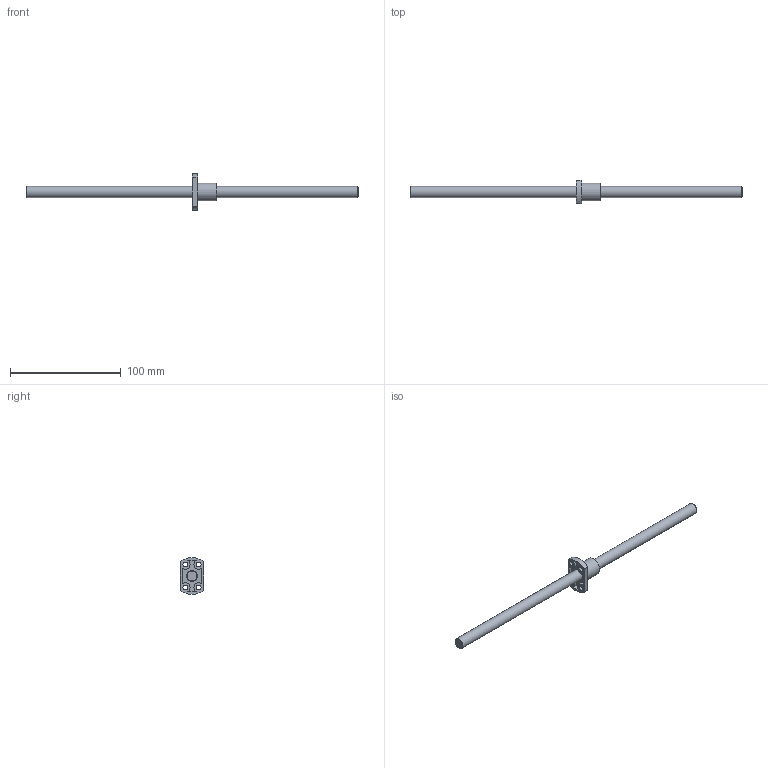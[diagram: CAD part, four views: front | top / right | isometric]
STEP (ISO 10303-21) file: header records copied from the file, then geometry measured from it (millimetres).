
FILE_DESCRIPTION((''),'2;1');
FILE_NAME('D:\製品 (図面)\カタログ用3D\ネジ関連\STEP形式\MSK\MSK10.stp','2010-06-02T14:37:52',('Tsuchiya'),(''),'Autodesk Inventor 10','Autodesk Inventor 10','');
FILE_SCHEMA(('AUTOMOTIVE_DESIGN { 1 0 10303 214 1 1 1 1 }'));
Length unit declared in the file: millimetre
Products named in the file (3): MSK10; MSK101; MSK102
Assembly tree (2 placements, depth 2):
  MSK10
    MSK101
    MSK102
Bounding box: 300 x 21 x 33 mm (x, y, z)
Volume: 27485.3 mm3; surface area: 13055.4 mm2
Topology: 2 solids, 2 shells, 31 faces, 78 edges, 53 vertices
Faces by surface type: cylinder 15, plane 14, cone 2
Full cylindrical faces by diameter (mm): 4.5 x4, 10 x2, 16 x1
Entity records: 962 total; most frequent: DIRECTION 176, CARTESIAN_POINT 148, ORIENTED_EDGE 128, AXIS2_PLACEMENT_3D 76, EDGE_CURVE 64, EDGE_LOOP 52, VERTEX_POINT 48, CIRCLE 32
